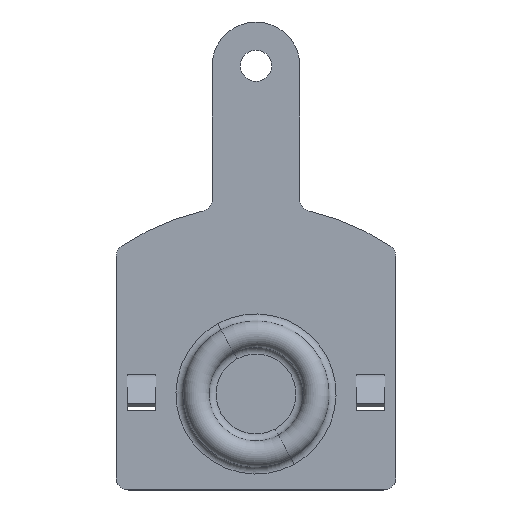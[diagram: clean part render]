
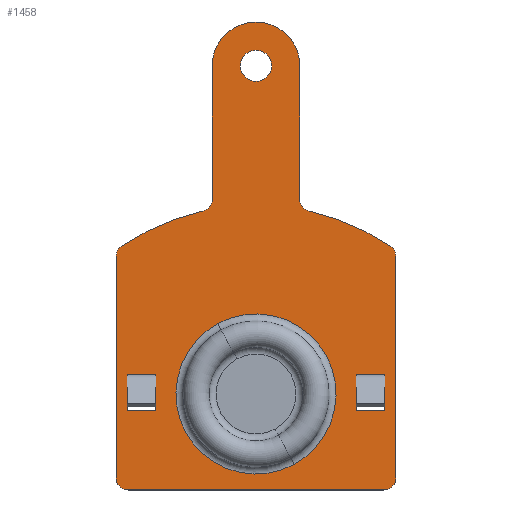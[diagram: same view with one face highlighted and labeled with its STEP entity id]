
A CAD part, top view. The second image highlights one B-rep face of the part: STEP entity #1458.
In plain terms, the highlighted planar face has unit normal (0, 0, 1).
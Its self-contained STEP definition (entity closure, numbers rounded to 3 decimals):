
#214=CARTESIAN_POINT('Vertex',(1.6,-2.928,0.3)) ;
#230=CARTESIAN_POINT('Vertex',(-1.6,2.928,0.3)) ;
#233=CARTESIAN_POINT('Axis2P3D Location',(0.,0.,0.3)) ;
#250=CARTESIAN_POINT('Axis2P3D Location',(0.,0.,0.3)) ;
#348=CARTESIAN_POINT('Axis2P3D Location',(0.,0.,0.3)) ;
#369=CARTESIAN_POINT('Vertex',(1.825,13.675,0.3)) ;
#383=CARTESIAN_POINT('Vertex',(-1.825,13.675,0.3)) ;
#386=CARTESIAN_POINT('Axis2P3D Location',(0.,13.675,0.3)) ;
#410=CARTESIAN_POINT('Line Origine',(1.825,10.893,0.3)) ;
#414=CARTESIAN_POINT('Vertex',(1.825,8.111,0.3)) ;
#434=CARTESIAN_POINT('Line Origine',(-1.825,10.893,0.3)) ;
#438=CARTESIAN_POINT('Vertex',(-1.825,8.111,0.3)) ;
#465=CARTESIAN_POINT('Axis2P3D Location',(2.325,8.111,0.3)) ;
#469=CARTESIAN_POINT('Vertex',(2.214,7.623,0.3)) ;
#500=CARTESIAN_POINT('Vertex',(-2.214,7.623,0.3)) ;
#505=CARTESIAN_POINT('Axis2P3D Location',(-2.325,8.111,0.3)) ;
#538=CARTESIAN_POINT('Vertex',(-5.605,6.153,0.3)) ;
#541=CARTESIAN_POINT('Axis2P3D Location',(0.,-2.128,0.3)) ;
#558=CARTESIAN_POINT('Axis2P3D Location',(-5.325,5.739,0.3)) ;
#562=CARTESIAN_POINT('Vertex',(-5.825,5.739,0.3)) ;
#600=CARTESIAN_POINT('Vertex',(-5.825,-3.5,0.3)) ;
#603=CARTESIAN_POINT('Line Origine',(-5.825,1.119,0.3)) ;
#620=CARTESIAN_POINT('Axis2P3D Location',(-5.325,-3.5,0.3)) ;
#624=CARTESIAN_POINT('Vertex',(-5.325,-4.,0.3)) ;
#651=CARTESIAN_POINT('Line Origine',(0.,-4.,0.3)) ;
#655=CARTESIAN_POINT('Vertex',(5.325,-4.,0.3)) ;
#682=CARTESIAN_POINT('Axis2P3D Location',(5.325,-3.5,0.3)) ;
#686=CARTESIAN_POINT('Vertex',(5.825,-3.5,0.3)) ;
#713=CARTESIAN_POINT('Line Origine',(5.825,1.119,0.3)) ;
#717=CARTESIAN_POINT('Vertex',(5.825,5.739,0.3)) ;
#744=CARTESIAN_POINT('Axis2P3D Location',(5.325,5.739,0.3)) ;
#748=CARTESIAN_POINT('Vertex',(5.605,6.153,0.3)) ;
#770=CARTESIAN_POINT('Axis2P3D Location',(0.,-2.128,0.3)) ;
#792=CARTESIAN_POINT('Axis2P3D Location',(0.,13.675,0.3)) ;
#796=CARTESIAN_POINT('Vertex',(-0.65,13.675,0.3)) ;
#798=CARTESIAN_POINT('Vertex',(0.65,13.675,0.3)) ;
#827=CARTESIAN_POINT('Axis2P3D Location',(0.,13.675,0.3)) ;
#900=CARTESIAN_POINT('Vertex',(-4.175,-0.7,0.3)) ;
#903=CARTESIAN_POINT('Line Origine',(-4.175,-0.306,0.3)) ;
#907=CARTESIAN_POINT('Vertex',(-4.175,0.088,0.3)) ;
#939=CARTESIAN_POINT('Vertex',(-5.375,-0.7,0.3)) ;
#942=CARTESIAN_POINT('Line Origine',(-4.775,-0.7,0.3)) ;
#959=CARTESIAN_POINT('Line Origine',(-5.375,-0.306,0.3)) ;
#963=CARTESIAN_POINT('Vertex',(-5.375,0.088,0.3)) ;
#993=CARTESIAN_POINT('Vertex',(5.375,0.088,0.3)) ;
#1016=CARTESIAN_POINT('Vertex',(5.375,-0.7,0.3)) ;
#1019=CARTESIAN_POINT('Line Origine',(5.375,-0.306,0.3)) ;
#1043=CARTESIAN_POINT('Vertex',(4.175,-0.7,0.3)) ;
#1046=CARTESIAN_POINT('Line Origine',(4.775,-0.7,0.3)) ;
#1076=CARTESIAN_POINT('Vertex',(4.175,0.088,0.3)) ;
#1079=CARTESIAN_POINT('Line Origine',(4.175,-0.306,0.3)) ;
#1123=CARTESIAN_POINT('Vertex',(-5.375,0.8,0.3)) ;
#1139=CARTESIAN_POINT('Vertex',(-4.175,0.8,0.3)) ;
#1142=CARTESIAN_POINT('Line Origine',(4.775,0.8,0.3)) ;
#1178=CARTESIAN_POINT('Line Origine',(-4.175,0.444,0.3)) ;
#1196=CARTESIAN_POINT('Line Origine',(-5.375,0.444,0.3)) ;
#1237=CARTESIAN_POINT('Vertex',(5.375,0.8,0.3)) ;
#1261=CARTESIAN_POINT('Line Origine',(5.375,0.444,0.3)) ;
#1279=CARTESIAN_POINT('Line Origine',(4.175,0.444,0.3)) ;
#1283=CARTESIAN_POINT('Vertex',(4.175,0.8,0.3)) ;
#1320=CARTESIAN_POINT('Line Origine',(4.775,0.8,0.3)) ;
#234=DIRECTION('Axis2P3D Direction',(0.,0.,1.)) ;
#251=DIRECTION('Axis2P3D Direction',(0.,0.,1.)) ;
#349=DIRECTION('Axis2P3D Direction',(0.,0.,1.)) ;
#350=DIRECTION('Axis2P3D XDirection',(1.,0.,0.)) ;
#387=DIRECTION('Axis2P3D Direction',(0.,0.,1.)) ;
#411=DIRECTION('Vector Direction',(0.,1.,0.)) ;
#435=DIRECTION('Vector Direction',(0.,-1.,0.)) ;
#466=DIRECTION('Axis2P3D Direction',(0.,0.,1.)) ;
#506=DIRECTION('Axis2P3D Direction',(0.,0.,1.)) ;
#542=DIRECTION('Axis2P3D Direction',(0.,0.,1.)) ;
#559=DIRECTION('Axis2P3D Direction',(0.,0.,-1.)) ;
#604=DIRECTION('Vector Direction',(0.,-1.,0.)) ;
#621=DIRECTION('Axis2P3D Direction',(0.,0.,1.)) ;
#652=DIRECTION('Vector Direction',(1.,0.,0.)) ;
#683=DIRECTION('Axis2P3D Direction',(0.,0.,1.)) ;
#714=DIRECTION('Vector Direction',(0.,1.,0.)) ;
#745=DIRECTION('Axis2P3D Direction',(0.,0.,-1.)) ;
#771=DIRECTION('Axis2P3D Direction',(0.,0.,1.)) ;
#793=DIRECTION('Axis2P3D Direction',(0.,0.,1.)) ;
#828=DIRECTION('Axis2P3D Direction',(0.,0.,1.)) ;
#904=DIRECTION('Vector Direction',(0.,-1.,0.)) ;
#943=DIRECTION('Vector Direction',(-1.,0.,0.)) ;
#960=DIRECTION('Vector Direction',(0.,1.,0.)) ;
#1020=DIRECTION('Vector Direction',(0.,1.,0.)) ;
#1047=DIRECTION('Vector Direction',(-1.,0.,0.)) ;
#1080=DIRECTION('Vector Direction',(0.,-1.,0.)) ;
#1143=DIRECTION('Vector Direction',(1.,0.,0.)) ;
#1179=DIRECTION('Vector Direction',(0.,-1.,0.)) ;
#1197=DIRECTION('Vector Direction',(0.,1.,0.)) ;
#1262=DIRECTION('Vector Direction',(0.,1.,0.)) ;
#1280=DIRECTION('Vector Direction',(0.,-1.,0.)) ;
#1321=DIRECTION('Vector Direction',(1.,0.,0.)) ;
#235=AXIS2_PLACEMENT_3D('Circle Axis2P3D',#233,#234,$) ;
#252=AXIS2_PLACEMENT_3D('Circle Axis2P3D',#250,#251,$) ;
#351=AXIS2_PLACEMENT_3D('Plane Axis2P3D',#348,#349,#350) ;
#388=AXIS2_PLACEMENT_3D('Circle Axis2P3D',#386,#387,$) ;
#467=AXIS2_PLACEMENT_3D('Circle Axis2P3D',#465,#466,$) ;
#507=AXIS2_PLACEMENT_3D('Circle Axis2P3D',#505,#506,$) ;
#543=AXIS2_PLACEMENT_3D('Circle Axis2P3D',#541,#542,$) ;
#560=AXIS2_PLACEMENT_3D('Circle Axis2P3D',#558,#559,$) ;
#622=AXIS2_PLACEMENT_3D('Circle Axis2P3D',#620,#621,$) ;
#684=AXIS2_PLACEMENT_3D('Circle Axis2P3D',#682,#683,$) ;
#746=AXIS2_PLACEMENT_3D('Circle Axis2P3D',#744,#745,$) ;
#772=AXIS2_PLACEMENT_3D('Circle Axis2P3D',#770,#771,$) ;
#794=AXIS2_PLACEMENT_3D('Circle Axis2P3D',#792,#793,$) ;
#829=AXIS2_PLACEMENT_3D('Circle Axis2P3D',#827,#828,$) ;
#1419=ORIENTED_EDGE('',*,*,#471,.T.) ;
#1420=ORIENTED_EDGE('',*,*,#416,.T.) ;
#1421=ORIENTED_EDGE('',*,*,#390,.T.) ;
#1422=ORIENTED_EDGE('',*,*,#440,.T.) ;
#1423=ORIENTED_EDGE('',*,*,#509,.T.) ;
#1424=ORIENTED_EDGE('',*,*,#545,.T.) ;
#1425=ORIENTED_EDGE('',*,*,#564,.F.) ;
#1426=ORIENTED_EDGE('',*,*,#607,.T.) ;
#1427=ORIENTED_EDGE('',*,*,#626,.F.) ;
#1428=ORIENTED_EDGE('',*,*,#657,.T.) ;
#1429=ORIENTED_EDGE('',*,*,#688,.F.) ;
#1430=ORIENTED_EDGE('',*,*,#719,.T.) ;
#1431=ORIENTED_EDGE('',*,*,#750,.F.) ;
#1432=ORIENTED_EDGE('',*,*,#774,.T.) ;
#1435=ORIENTED_EDGE('',*,*,#1265,.F.) ;
#1436=ORIENTED_EDGE('',*,*,#1023,.F.) ;
#1437=ORIENTED_EDGE('',*,*,#1050,.T.) ;
#1438=ORIENTED_EDGE('',*,*,#1083,.F.) ;
#1439=ORIENTED_EDGE('',*,*,#1285,.F.) ;
#1440=ORIENTED_EDGE('',*,*,#1324,.T.) ;
#1443=ORIENTED_EDGE('',*,*,#1146,.F.) ;
#1444=ORIENTED_EDGE('',*,*,#1182,.T.) ;
#1445=ORIENTED_EDGE('',*,*,#909,.T.) ;
#1446=ORIENTED_EDGE('',*,*,#946,.T.) ;
#1447=ORIENTED_EDGE('',*,*,#965,.T.) ;
#1448=ORIENTED_EDGE('',*,*,#1200,.T.) ;
#1451=ORIENTED_EDGE('',*,*,#800,.F.) ;
#1452=ORIENTED_EDGE('',*,*,#831,.F.) ;
#1455=ORIENTED_EDGE('',*,*,#237,.F.) ;
#1456=ORIENTED_EDGE('',*,*,#254,.F.) ;
#1441=FACE_BOUND('',#1434,.T.) ;
#1449=FACE_BOUND('',#1442,.T.) ;
#1453=FACE_BOUND('',#1450,.T.) ;
#1457=FACE_BOUND('',#1454,.T.) ;
#412=VECTOR('Line Direction',#411,1.) ;
#436=VECTOR('Line Direction',#435,1.) ;
#605=VECTOR('Line Direction',#604,1.) ;
#653=VECTOR('Line Direction',#652,1.) ;
#715=VECTOR('Line Direction',#714,1.) ;
#905=VECTOR('Line Direction',#904,1.) ;
#944=VECTOR('Line Direction',#943,1.) ;
#961=VECTOR('Line Direction',#960,1.) ;
#1021=VECTOR('Line Direction',#1020,1.) ;
#1048=VECTOR('Line Direction',#1047,1.) ;
#1081=VECTOR('Line Direction',#1080,1.) ;
#1144=VECTOR('Line Direction',#1143,1.) ;
#1180=VECTOR('Line Direction',#1179,1.) ;
#1198=VECTOR('Line Direction',#1197,1.) ;
#1263=VECTOR('Line Direction',#1262,1.) ;
#1281=VECTOR('Line Direction',#1280,1.) ;
#1322=VECTOR('Line Direction',#1321,1.) ;
#1458=ADVANCED_FACE('PartBody',(#1433,#1441,#1449,#1453,#1457),#352,.T.) ;
#236=CIRCLE('generated circle',#235,3.337) ;
#253=CIRCLE('generated circle',#252,3.337) ;
#389=CIRCLE('generated circle',#388,1.825) ;
#468=CIRCLE('generated circle',#467,0.5) ;
#508=CIRCLE('generated circle',#507,0.5) ;
#544=CIRCLE('generated circle',#543,10.) ;
#561=CIRCLE('generated circle',#560,0.5) ;
#623=CIRCLE('generated circle',#622,0.5) ;
#685=CIRCLE('generated circle',#684,0.5) ;
#747=CIRCLE('generated circle',#746,0.5) ;
#773=CIRCLE('generated circle',#772,10.) ;
#795=CIRCLE('generated circle',#794,0.65) ;
#830=CIRCLE('generated circle',#829,0.65) ;
#237=EDGE_CURVE('',#231,#215,#236,.T.) ;
#254=EDGE_CURVE('',#215,#231,#253,.T.) ;
#390=EDGE_CURVE('',#370,#384,#389,.T.) ;
#416=EDGE_CURVE('',#415,#370,#413,.T.) ;
#440=EDGE_CURVE('',#384,#439,#437,.T.) ;
#471=EDGE_CURVE('',#470,#415,#468,.F.) ;
#509=EDGE_CURVE('',#439,#501,#508,.F.) ;
#545=EDGE_CURVE('',#501,#539,#544,.T.) ;
#564=EDGE_CURVE('',#563,#539,#561,.T.) ;
#607=EDGE_CURVE('',#563,#601,#606,.T.) ;
#626=EDGE_CURVE('',#625,#601,#623,.F.) ;
#657=EDGE_CURVE('',#625,#656,#654,.T.) ;
#688=EDGE_CURVE('',#687,#656,#685,.F.) ;
#719=EDGE_CURVE('',#687,#718,#716,.T.) ;
#750=EDGE_CURVE('',#749,#718,#747,.T.) ;
#774=EDGE_CURVE('',#749,#470,#773,.T.) ;
#800=EDGE_CURVE('',#797,#799,#795,.T.) ;
#831=EDGE_CURVE('',#799,#797,#830,.T.) ;
#909=EDGE_CURVE('',#908,#901,#906,.T.) ;
#946=EDGE_CURVE('',#901,#940,#945,.T.) ;
#965=EDGE_CURVE('',#940,#964,#962,.T.) ;
#1023=EDGE_CURVE('',#1017,#994,#1022,.T.) ;
#1050=EDGE_CURVE('',#1017,#1044,#1049,.T.) ;
#1083=EDGE_CURVE('',#1077,#1044,#1082,.T.) ;
#1146=EDGE_CURVE('',#1140,#1124,#1145,.F.) ;
#1182=EDGE_CURVE('',#1140,#908,#1181,.T.) ;
#1200=EDGE_CURVE('',#964,#1124,#1199,.T.) ;
#1265=EDGE_CURVE('',#994,#1238,#1264,.T.) ;
#1285=EDGE_CURVE('',#1284,#1077,#1282,.T.) ;
#1324=EDGE_CURVE('',#1284,#1238,#1323,.T.) ;
#1418=EDGE_LOOP('',(#1419,#1420,#1421,#1422,#1423,#1424,#1425,#1426,#1427,#1428,#1429,#1430,#1431,#1432)) ;
#1434=EDGE_LOOP('',(#1435,#1436,#1437,#1438,#1439,#1440)) ;
#1442=EDGE_LOOP('',(#1443,#1444,#1445,#1446,#1447,#1448)) ;
#1450=EDGE_LOOP('',(#1451,#1452)) ;
#1454=EDGE_LOOP('',(#1455,#1456)) ;
#1433=FACE_OUTER_BOUND('',#1418,.T.) ;
#413=LINE('Line',#410,#412) ;
#437=LINE('Line',#434,#436) ;
#606=LINE('Line',#603,#605) ;
#654=LINE('Line',#651,#653) ;
#716=LINE('Line',#713,#715) ;
#906=LINE('Line',#903,#905) ;
#945=LINE('Line',#942,#944) ;
#962=LINE('Line',#959,#961) ;
#1022=LINE('Line',#1019,#1021) ;
#1049=LINE('Line',#1046,#1048) ;
#1082=LINE('Line',#1079,#1081) ;
#1145=LINE('Line',#1142,#1144) ;
#1181=LINE('Line',#1178,#1180) ;
#1199=LINE('Line',#1196,#1198) ;
#1264=LINE('Line',#1261,#1263) ;
#1282=LINE('Line',#1279,#1281) ;
#1323=LINE('Line',#1320,#1322) ;
#352=PLANE('Plane',#351) ;
#215=VERTEX_POINT('',#214) ;
#231=VERTEX_POINT('',#230) ;
#370=VERTEX_POINT('',#369) ;
#384=VERTEX_POINT('',#383) ;
#415=VERTEX_POINT('',#414) ;
#439=VERTEX_POINT('',#438) ;
#470=VERTEX_POINT('',#469) ;
#501=VERTEX_POINT('',#500) ;
#539=VERTEX_POINT('',#538) ;
#563=VERTEX_POINT('',#562) ;
#601=VERTEX_POINT('',#600) ;
#625=VERTEX_POINT('',#624) ;
#656=VERTEX_POINT('',#655) ;
#687=VERTEX_POINT('',#686) ;
#718=VERTEX_POINT('',#717) ;
#749=VERTEX_POINT('',#748) ;
#797=VERTEX_POINT('',#796) ;
#799=VERTEX_POINT('',#798) ;
#901=VERTEX_POINT('',#900) ;
#908=VERTEX_POINT('',#907) ;
#940=VERTEX_POINT('',#939) ;
#964=VERTEX_POINT('',#963) ;
#994=VERTEX_POINT('',#993) ;
#1017=VERTEX_POINT('',#1016) ;
#1044=VERTEX_POINT('',#1043) ;
#1077=VERTEX_POINT('',#1076) ;
#1124=VERTEX_POINT('',#1123) ;
#1140=VERTEX_POINT('',#1139) ;
#1238=VERTEX_POINT('',#1237) ;
#1284=VERTEX_POINT('',#1283) ;
